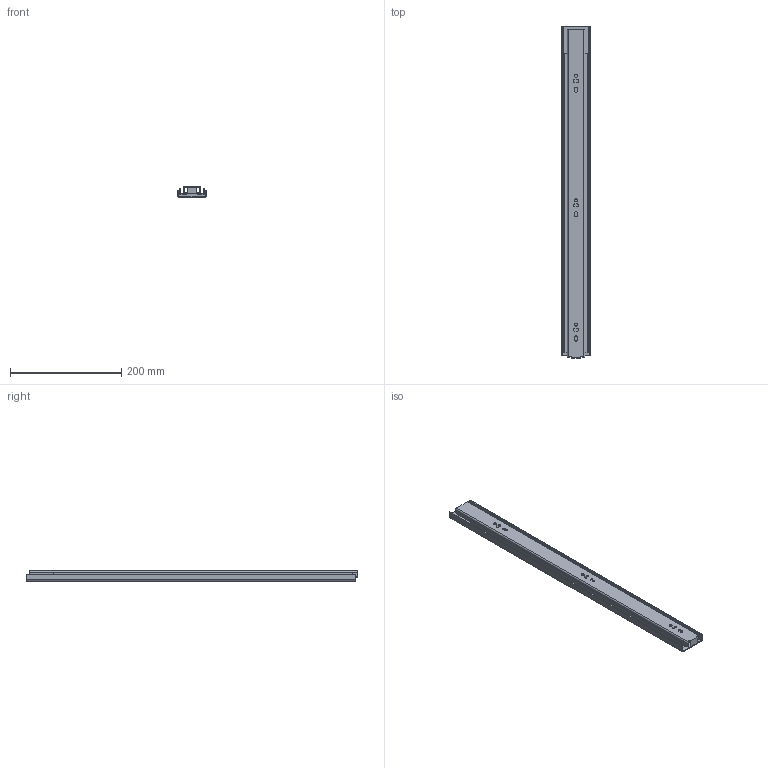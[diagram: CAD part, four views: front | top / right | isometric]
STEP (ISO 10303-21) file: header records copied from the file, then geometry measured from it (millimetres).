
FILE_DESCRIPTION((''),'2;1');
FILE_NAME('78A01_600_CLOSE_ASM','2020-09-01T15:19:10',('T170334'),(''),'CREO PARAMETRIC BY PTC INC, 2018260','CREO PARAMETRIC BY PTC INC, 2018260','');
FILE_SCHEMA(('CONFIG_CONTROL_DESIGN'));
Length unit declared in the file: millimetre
Products named in the file (5): OUT_600; MID_600; IN_600; MECHANISM_C; 78A01_600_CLOSE_ASM
Assembly tree (4 placements, depth 2):
  78A01_600_CLOSE_ASM
    OUT_600
    MID_600
    IN_600
    MECHANISM_C
Bounding box: 53.32 x 598 x 18.84 mm (x, y, z)
Volume: 212240.4 mm3; surface area: 227949.7 mm2
Topology: 4 solids, 4 shells, 162 faces, 458 edges, 304 vertices
Faces by surface type: cylinder 82, plane 80
Entity records: 5511 total; most frequent: CARTESIAN_POINT 973, DIRECTION 948, ORIENTED_EDGE 916, EDGE_CURVE 458, AXIS2_PLACEMENT_3D 327, VERTEX_POINT 304, VECTOR 294, LINE 294
